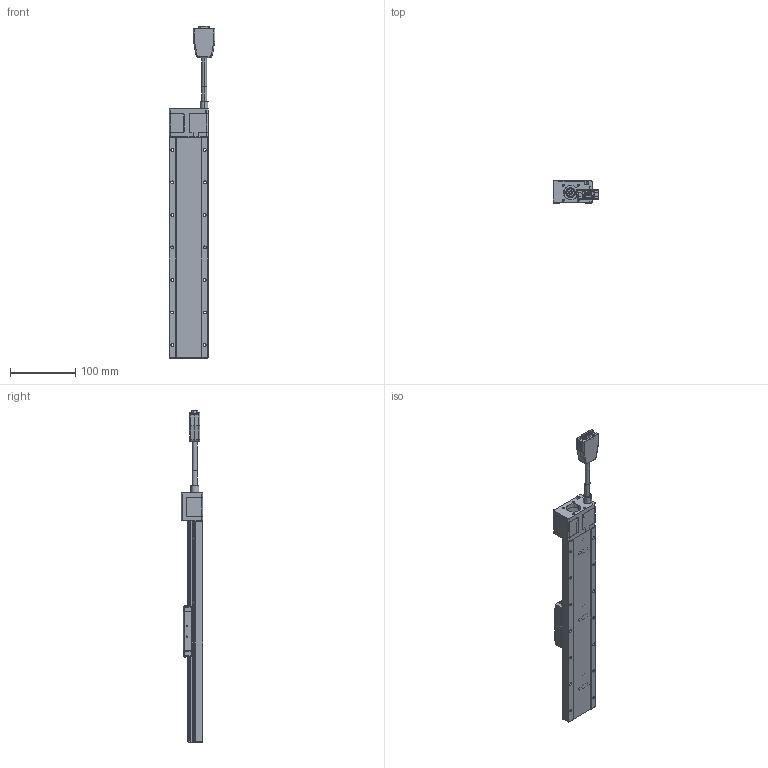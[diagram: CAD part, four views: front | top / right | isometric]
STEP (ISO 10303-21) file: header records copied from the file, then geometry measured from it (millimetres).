
FILE_DESCRIPTION (( 'STEP AP203' ), '1' );
FILE_NAME ('CXN60250-S2?N(µL°¨¹F).S', '2024-01-05T03:32:29', ( '' ), ( '' ), 'SwSTEP 2.0', 'SolidWorks 2019', '' );
FILE_SCHEMA (( 'CONFIG_CONTROL_DESIGN' ));
Length unit declared in the file: millimetre
Products named in the file (3): Group4^CXN60250-S2?N(28框無馬達)_defeature_GMT; Group5^CXN60250-S2?N(28框無馬達)_defeature_GMT; CXN60250-S2?N(無馬達)
Assembly tree (2 placements, depth 2):
  CXN60250-S2?N(無馬達)
    Group4^CXN60250-S2?N(28框無馬達)_defeature_GMT
    Group5^CXN60250-S2?N(28框無馬達)_defeature_GMT
Bounding box: 70.5 x 33.5 x 510.6 mm (x, y, z)
Volume: 35603.2 mm3; surface area: 143427.1 mm2
Topology: 22 solids, 25 shells, 3847 faces, 9717 edges, 5900 vertices
Faces by surface type: plane 1355, cylinder 1235, cone 507, torus 294, bspline 272, sphere 184
Entity records: 126058 total; most frequent: CARTESIAN_POINT 33962, DIRECTION 19936, ORIENTED_EDGE 19056, EDGE_CURVE 9528, AXIS2_PLACEMENT_3D 7639, VERTEX_POINT 5857, LINE 4658, VECTOR 4658
